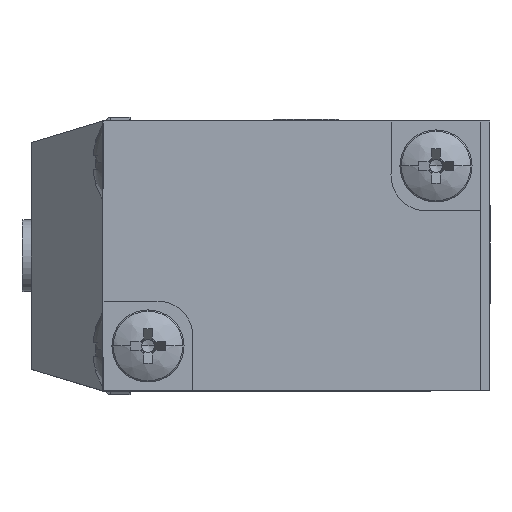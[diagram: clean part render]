
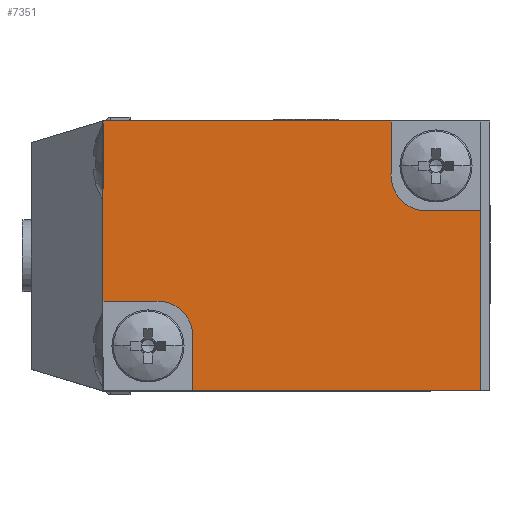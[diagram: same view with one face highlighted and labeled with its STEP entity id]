
A CAD part, left-side view. The second image highlights one B-rep face of the part: STEP entity #7351.
In plain terms, the highlighted planar face has unit normal (-1, 0, 0).
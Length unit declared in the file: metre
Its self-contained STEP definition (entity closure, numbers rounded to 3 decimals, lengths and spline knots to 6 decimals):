
#130 = CARTESIAN_POINT ( 'NONE',  ( -0.009, 0.003, 0.0045 ) ) ;
#166 = ORIENTED_EDGE ( 'NONE', *, *, #981, .F. ) ;
#207 = LINE ( 'NONE', #2724, #11907 ) ;
#229 = DIRECTION ( 'NONE',  ( -1., 0., 0. ) ) ;
#270 = VERTEX_POINT ( 'NONE', #6963 ) ;
#382 = DIRECTION ( 'NONE',  ( 0., 0., -1. ) ) ;
#408 = DIRECTION ( 'NONE',  ( 0., 0., -1. ) ) ;
#648 = CARTESIAN_POINT ( 'NONE',  ( -0.009, 0.016, -0.0075 ) ) ;
#878 = VERTEX_POINT ( 'NONE', #5404 ) ;
#981 = EDGE_CURVE ( 'NONE', #270, #5621, #5116, .T. ) ;
#984 = VERTEX_POINT ( 'NONE', #6749 ) ;
#1102 = EDGE_CURVE ( 'NONE', #7195, #984, #11559, .T. ) ;
#1118 = VECTOR ( 'NONE', #1547, 1. ) ;
#1267 = EDGE_CURVE ( 'NONE', #7154, #984, #3063, .T. ) ;
#1277 = CARTESIAN_POINT ( 'NONE',  ( -0.009, 0., 0.0075 ) ) ;
#1285 = AXIS2_PLACEMENT_3D ( 'NONE', #130, #229, #6498 ) ;
#1451 = ORIENTED_EDGE ( 'NONE', *, *, #1267, .F. ) ;
#1520 = CARTESIAN_POINT ( 'NONE',  ( -0.009, 0., 0. ) ) ;
#1547 = DIRECTION ( 'NONE',  ( 0., 0., 1. ) ) ;
#1617 = EDGE_CURVE ( 'NONE', #9792, #2997, #9772, .T. ) ;
#1668 = ORIENTED_EDGE ( 'NONE', *, *, #1617, .F. ) ;
#1870 = LINE ( 'NONE', #3904, #11682 ) ;
#2224 = CARTESIAN_POINT ( 'NONE',  ( -0.009, 0.0105, -0.0075 ) ) ;
#2296 = DIRECTION ( 'NONE',  ( 0., 1., 0. ) ) ;
#2370 = VECTOR ( 'NONE', #10256, 1. ) ;
#2622 = VECTOR ( 'NONE', #6788, 1. ) ;
#2691 = EDGE_CURVE ( 'NONE', #7154, #878, #1870, .T. ) ;
#2724 = CARTESIAN_POINT ( 'NONE',  ( -0.009, 0.021, 0. ) ) ;
#2837 = ORIENTED_EDGE ( 'NONE', *, *, #2691, .T. ) ;
#2997 = VERTEX_POINT ( 'NONE', #648 ) ;
#3036 = EDGE_CURVE ( 'NONE', #9792, #7195, #6153, .T. ) ;
#3063 = CIRCLE ( 'NONE', #1285, 0.002 ) ;
#3375 = VECTOR ( 'NONE', #9101, 1. ) ;
#3904 = CARTESIAN_POINT ( 'NONE',  ( -0.009, 0.005, 0.006 ) ) ;
#4071 = DIRECTION ( 'NONE',  ( 0., 0., 1. ) ) ;
#4094 = CARTESIAN_POINT ( 'NONE',  ( -0.009, 0.016, -0.0045 ) ) ;
#4131 = CARTESIAN_POINT ( 'NONE',  ( -0.009, 0.021, 0.0075 ) ) ;
#4241 = VECTOR ( 'NONE', #9407, 1. ) ;
#4804 = VECTOR ( 'NONE', #2296, 1. ) ;
#5116 = LINE ( 'NONE', #6708, #2622 ) ;
#5196 = CIRCLE ( 'NONE', #5749, 0.002 ) ;
#5404 = CARTESIAN_POINT ( 'NONE',  ( -0.009, 0.005, 0.0075 ) ) ;
#5450 = ORIENTED_EDGE ( 'NONE', *, *, #10987, .T. ) ;
#5451 = FACE_OUTER_BOUND ( 'NONE', #5994, .T. ) ;
#5567 = AXIS2_PLACEMENT_3D ( 'NONE', #1277, #6015, #382 ) ;
#5621 = VERTEX_POINT ( 'NONE', #9380 ) ;
#5749 = AXIS2_PLACEMENT_3D ( 'NONE', #11492, #6048, #408 ) ;
#5994 = EDGE_LOOP ( 'NONE', ( #11192, #1451, #2837, #8444, #5450, #166, #8638, #8971, #1668, #6323 ) ) ;
#6015 = DIRECTION ( 'NONE',  ( 1., 0., 0. ) ) ;
#6048 = DIRECTION ( 'NONE',  ( -1., 0., 0. ) ) ;
#6153 = LINE ( 'NONE', #1520, #1118 ) ;
#6323 = ORIENTED_EDGE ( 'NONE', *, *, #3036, .T. ) ;
#6498 = DIRECTION ( 'NONE',  ( 0., 0., -1. ) ) ;
#6708 = CARTESIAN_POINT ( 'NONE',  ( -0.009, 0.0105, -0.0025 ) ) ;
#6749 = CARTESIAN_POINT ( 'NONE',  ( -0.009, 0.003, 0.0025 ) ) ;
#6770 = CARTESIAN_POINT ( 'NONE',  ( -0.009, 0., 0.0025 ) ) ;
#6788 = DIRECTION ( 'NONE',  ( 0., 1., 0. ) ) ;
#6923 = EDGE_CURVE ( 'NONE', #2997, #10669, #9522, .T. ) ;
#6963 = CARTESIAN_POINT ( 'NONE',  ( -0.009, 0.018, -0.0025 ) ) ;
#7154 = VERTEX_POINT ( 'NONE', #11236 ) ;
#7195 = VERTEX_POINT ( 'NONE', #6770 ) ;
#7351 = ADVANCED_FACE ( 'NONE', ( #5451 ), #8811, .F. ) ;
#8075 = EDGE_CURVE ( 'NONE', #878, #8478, #8667, .T. ) ;
#8191 = CARTESIAN_POINT ( 'NONE',  ( -0.009, 0.0105, 0.0075 ) ) ;
#8375 = DIRECTION ( 'NONE',  ( 0., 0., -1. ) ) ;
#8444 = ORIENTED_EDGE ( 'NONE', *, *, #8075, .T. ) ;
#8478 = VERTEX_POINT ( 'NONE', #4131 ) ;
#8623 = CARTESIAN_POINT ( 'NONE',  ( -0.009, 0.0015, 0.0025 ) ) ;
#8638 = ORIENTED_EDGE ( 'NONE', *, *, #10126, .F. ) ;
#8667 = LINE ( 'NONE', #8191, #3375 ) ;
#8811 = PLANE ( 'NONE',  #5567 ) ;
#8971 = ORIENTED_EDGE ( 'NONE', *, *, #6923, .F. ) ;
#9101 = DIRECTION ( 'NONE',  ( 0., 1., 0. ) ) ;
#9380 = CARTESIAN_POINT ( 'NONE',  ( -0.009, 0.021, -0.0025 ) ) ;
#9407 = DIRECTION ( 'NONE',  ( 0., 1., 0. ) ) ;
#9522 = LINE ( 'NONE', #10220, #2370 ) ;
#9772 = LINE ( 'NONE', #2224, #4804 ) ;
#9792 = VERTEX_POINT ( 'NONE', #10930 ) ;
#10126 = EDGE_CURVE ( 'NONE', #10669, #270, #5196, .T. ) ;
#10220 = CARTESIAN_POINT ( 'NONE',  ( -0.009, 0.016, 0. ) ) ;
#10256 = DIRECTION ( 'NONE',  ( 0., 0., 1. ) ) ;
#10669 = VERTEX_POINT ( 'NONE', #4094 ) ;
#10930 = CARTESIAN_POINT ( 'NONE',  ( -0.009, 0., -0.0075 ) ) ;
#10987 = EDGE_CURVE ( 'NONE', #8478, #5621, #207, .T. ) ;
#11192 = ORIENTED_EDGE ( 'NONE', *, *, #1102, .T. ) ;
#11236 = CARTESIAN_POINT ( 'NONE',  ( -0.009, 0.005, 0.0045 ) ) ;
#11492 = CARTESIAN_POINT ( 'NONE',  ( -0.009, 0.018, -0.0045 ) ) ;
#11559 = LINE ( 'NONE', #8623, #4241 ) ;
#11682 = VECTOR ( 'NONE', #4071, 1. ) ;
#11907 = VECTOR ( 'NONE', #8375, 1. ) ;
